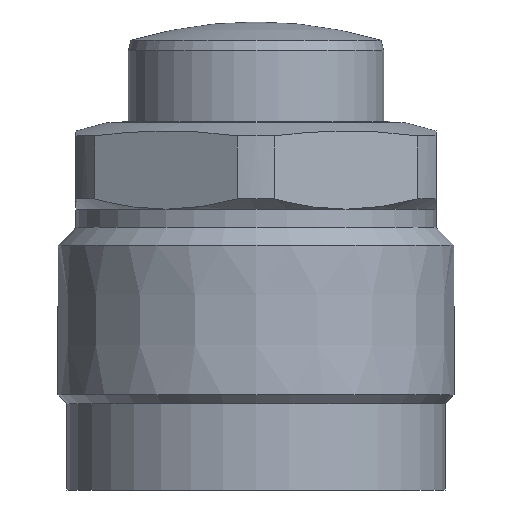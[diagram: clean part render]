
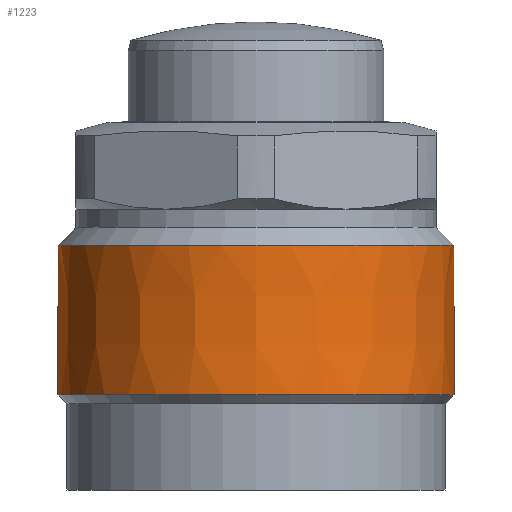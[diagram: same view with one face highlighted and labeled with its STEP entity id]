
A CAD part, front view. The second image highlights one B-rep face of the part: STEP entity #1223.
In plain terms, the highlighted conical face has half-angle 0 degrees and reference radius 27.5 mm.
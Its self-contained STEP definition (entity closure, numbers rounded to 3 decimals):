
#431 = DIRECTION ( 'NONE',  ( -1., 0., 0. ) ) ;
#433 = FACE_OUTER_BOUND ( 'NONE', #1567, .T. ) ;
#434 = DIRECTION ( 'NONE',  ( 0., 0., -1. ) ) ;
#436 = CARTESIAN_POINT ( 'NONE',  ( 0., 0., -37.8 ) ) ;
#481 = CARTESIAN_POINT ( 'NONE',  ( 27.5, 0., -17. ) ) ;
#489 = CARTESIAN_POINT ( 'NONE',  ( 27.5, 0., -37.8 ) ) ;
#490 = CARTESIAN_POINT ( 'NONE',  ( -27.5, 0., -17. ) ) ;
#492 = CARTESIAN_POINT ( 'NONE',  ( -27.5, 0., -37.8 ) ) ;
#566 = LINE ( 'NONE', #567, #1387 ) ;
#567 = CARTESIAN_POINT ( 'NONE',  ( 27.5, 0., -37.8 ) ) ;
#572 = CARTESIAN_POINT ( 'NONE',  ( -27.5, 0., -37.8 ) ) ;
#576 = LINE ( 'NONE', #572, #1390 ) ;
#577 = DIRECTION ( 'NONE',  ( 0., 0., -1. ) ) ;
#582 = DIRECTION ( 'NONE',  ( 0., 0., -1. ) ) ;
#639 = CARTESIAN_POINT ( 'NONE',  ( 0., 0., -37.8 ) ) ;
#640 = DIRECTION ( 'NONE',  ( 0., 0., 1. ) ) ;
#641 = DIRECTION ( 'NONE',  ( 1., 0., 0. ) ) ;
#642 = CARTESIAN_POINT ( 'NONE',  ( 0., 0., -17. ) ) ;
#643 = DIRECTION ( 'NONE',  ( 0., 0., 1. ) ) ;
#644 = DIRECTION ( 'NONE',  ( 1., 0., 0. ) ) ;
#902 = EDGE_CURVE ( 'NONE', #1621, #1618, #1275, .T. ) ;
#903 = EDGE_CURVE ( 'NONE', #1619, #1617, #1277, .T. ) ;
#1223 = ADVANCED_FACE ( 'NONE', ( #433 ), #1373, .T. ) ;
#1275 = CIRCLE ( 'NONE', #1280, 27.5 ) ;
#1277 = CIRCLE ( 'NONE', #1282, 27.5 ) ;
#1280 = AXIS2_PLACEMENT_3D ( 'NONE', #639, #640, #641 ) ;
#1282 = AXIS2_PLACEMENT_3D ( 'NONE', #642, #643, #644 ) ;
#1373 = CONICAL_SURFACE ( 'NONE', #1374, 27.5, 0. ) ;
#1374 = AXIS2_PLACEMENT_3D ( 'NONE', #436, #434, #431 ) ;
#1387 = VECTOR ( 'NONE', #577, 1000. ) ;
#1390 = VECTOR ( 'NONE', #582, 1000. ) ;
#1567 = EDGE_LOOP ( 'NONE', ( #2060, #2059, #2058, #2057 ) ) ;
#1617 = VERTEX_POINT ( 'NONE', #481 ) ;
#1618 = VERTEX_POINT ( 'NONE', #489 ) ;
#1619 = VERTEX_POINT ( 'NONE', #490 ) ;
#1621 = VERTEX_POINT ( 'NONE', #492 ) ;
#2057 = ORIENTED_EDGE ( 'NONE', *, *, #902, .T. ) ;
#2058 = ORIENTED_EDGE ( 'NONE', *, *, #2097, .T. ) ;
#2059 = ORIENTED_EDGE ( 'NONE', *, *, #903, .F. ) ;
#2060 = ORIENTED_EDGE ( 'NONE', *, *, #2093, .F. ) ;
#2093 = EDGE_CURVE ( 'NONE', #1617, #1618, #566, .T. ) ;
#2097 = EDGE_CURVE ( 'NONE', #1619, #1621, #576, .T. ) ;
